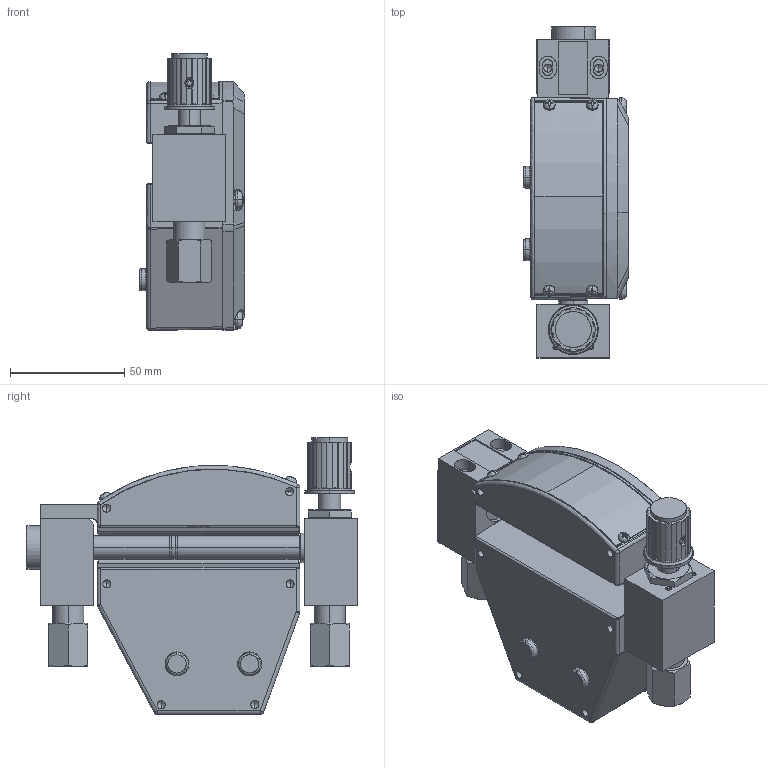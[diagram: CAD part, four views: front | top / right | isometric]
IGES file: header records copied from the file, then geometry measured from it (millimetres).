
Start section: SolidWorks IGES file using analytic representation for surfaces
Global section: file name: C:\Users\jodonnell\OneDrive - Illinois Tool Works, Inc\Desktop\3750C-A-4-D-A-A-0.IGS; native system: SolidWorks 2023; preprocessor: SolidWorks 2023; author: JODonnell; date: 250326.131612; units: inch
Bounding box: 46.05 x 145.06 x 121.06 mm (x, y, z)
Surface area: 109239.1 mm2 (no closed solid volume)
Topology: 0 solids, 0 shells, 1223 faces, 15705 edges, 15655 vertices
Faces by surface type: bspline 638, revolution 585
